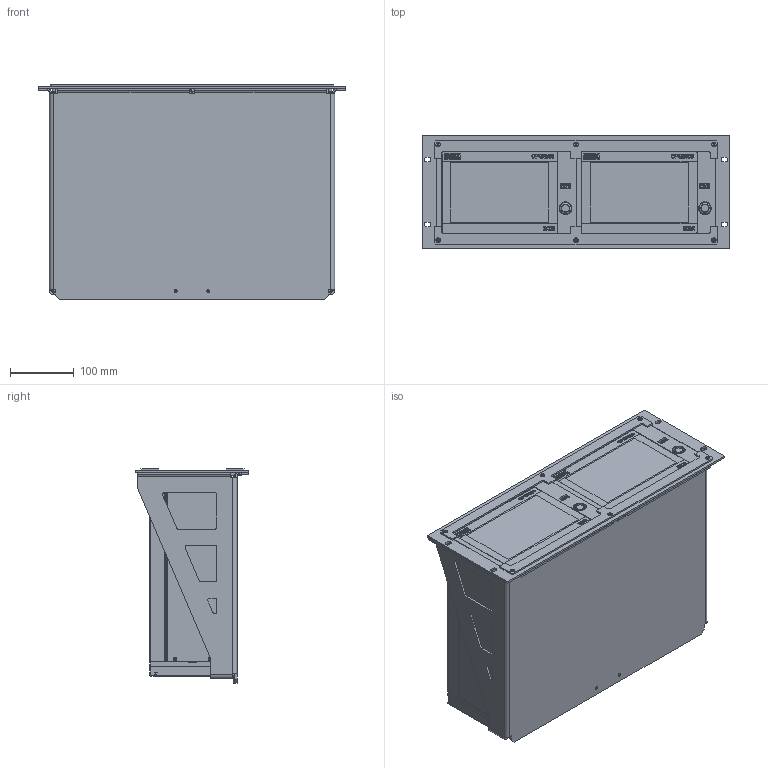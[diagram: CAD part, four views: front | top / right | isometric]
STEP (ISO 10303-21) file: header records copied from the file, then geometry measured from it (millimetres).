
FILE_DESCRIPTION (( 'STEP AP214' ), '1' );
FILE_NAME ('CPG2500II DUAL RACKMOUNT.STEP', '2014-08-11T16:25:24', ( 'ZamoraH' ), ( 'Microsoft' ), 'SwSTEP 2.0', 'SolidWorks 2012', '' );
FILE_SCHEMA (( 'AUTOMOTIVE_DESIGN' ));
Length unit declared in the file: inch
Products named in the file (1): CPG2500II DUAL RACKMOUNT
Bounding box: 481.81 x 177.01 x 335.92 mm (x, y, z)
Surface area: 1106441.6 mm2 (no closed solid volume)
Topology: 0 solids, 339 shells, 1960 faces, 10522 edges, 8779 vertices
Faces by surface type: plane 1050, cylinder 598, cone 122, sphere 114, bspline 68, torus 8
Entity records: 146994 total; most frequent: CARTESIAN_POINT 41876, DIRECTION 15446, ORIENTED_EDGE 13762, EDGE_CURVE 10510, VERTEX_POINT 8779, LINE 6254, VECTOR 6254, AXIS2_PLACEMENT_3D 4596
